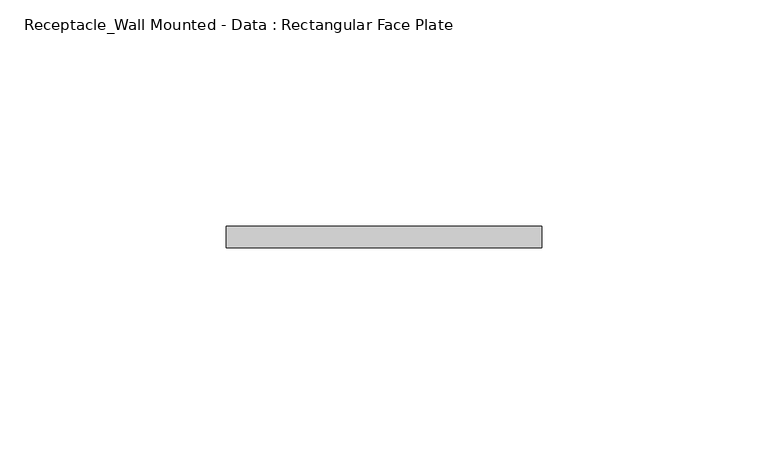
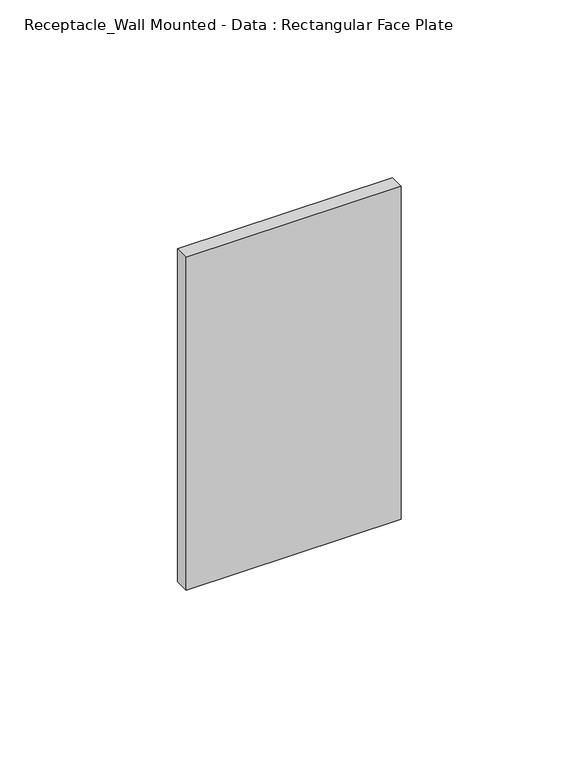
"""IFC4 building model written with IfcOpenShell, lengths in millimetres: proxy geometry, Receptacle_Wall Mounted - Data : Rectangular Face Plate."""

import ifcopenshell
import ifcopenshell.guid

model = None  # the IFC model being written
_history = None  # IfcOwnerHistory: only IFC2X3 demands one
_inside = {}  # id of a spatial element -> (the spatial element, [elements in it])
_under = {}  # id of a project, library or spatial element -> (it, [spatial elements below it])
_declared = {}  # id of a project -> (the project, [libraries it declares])
_typed = {}  # id of a type object -> (the type object, [elements of that type])
_made_of = {}  # id of a material, layer set ... -> (it, [elements and type objects made of it])


def new_model(schema):
    """Start an empty IFC model of exactly this schema.

    Asked for "IFC4X3", IfcOpenShell would pick the latest addendum, in which some entities
    have other attributes; the version numbers below select the first issue.
    IFC2X3 requires an IfcOwnerHistory on every rooted entity: one is made here for all.
    """
    global model, _history
    if schema == "IFC4X3":
        model = ifcopenshell.file(schema_version=(4, 3, 0, 0))
    else:
        model = ifcopenshell.file(schema=schema)
    _inside.clear()
    _under.clear()
    _declared.clear()
    _typed.clear()
    _made_of.clear()
    _history = None
    if model.schema == "IFC2X3":
        org = make("IfcOrganization", Name="unknown")
        user = make(
            "IfcPersonAndOrganization",
            ThePerson=make("IfcPerson", FamilyName="unknown"),
            TheOrganization=org,
        )
        app = make(
            "IfcApplication",
            ApplicationDeveloper=org,
            Version="unknown",
            ApplicationFullName="unknown",
            ApplicationIdentifier="unknown",
        )
        _history = make(
            "IfcOwnerHistory",
            OwningUser=user,
            OwningApplication=app,
            ChangeAction="ADDED",
            CreationDate=0,
        )
    return model


def make(cls, **values):
    """One entity of the class cls with the attributes given. An attribute that is None is left unset."""
    return model.create_entity(
        cls, **{name: value for name, value in values.items() if value is not None}
    )


def rooted(cls, **values):
    """An entity with a GlobalId (a new one), such as an element, a storey or a relation."""
    return make(cls, GlobalId=ifcopenshell.guid.new(), OwnerHistory=_history, **values)


def si_unit(unit_type, name, prefix=None):
    """IfcSIUnit, for example si_unit("LENGTHUNIT", "METRE", prefix="MILLI")."""
    return make("IfcSIUnit", UnitType=unit_type, Prefix=prefix, Name=name)


def assignment(units):
    """IfcUnitAssignment: the units of a project."""
    return None if units is None else make("IfcUnitAssignment", Units=units)


def point(xyz):
    """IfcCartesianPoint."""
    return None if xyz is None else make("IfcCartesianPoint", Coordinates=xyz)


def direction(xyz):
    """IfcDirection."""
    return None if xyz is None else make("IfcDirection", DirectionRatios=xyz)


def frame(location, z_axis=None, x_axis=None):
    """IfcAxis2Placement3D, a coordinate frame: its origin and axes. An axis left out is left unset."""
    return make(
        "IfcAxis2Placement3D",
        Location=point(location),
        Axis=direction(z_axis),
        RefDirection=direction(x_axis),
    )


def origin():
    """The frame at (0, 0, 0) with its axes left unset."""
    return frame((0.0, 0.0, 0.0))


def place(relative_to, where):
    """IfcLocalPlacement: puts the frame where relative to a parent placement (None: the world)."""
    return make(
        "IfcLocalPlacement", PlacementRelTo=relative_to, RelativePlacement=where
    )


def context(
    kind, dimensions, precision=None, world=None, true_north=None, identifier=None
):
    """IfcGeometricRepresentationContext, for example the 3D "Model" context."""
    return make(
        "IfcGeometricRepresentationContext",
        ContextIdentifier=identifier,
        ContextType=kind,
        CoordinateSpaceDimension=dimensions,
        Precision=precision,
        WorldCoordinateSystem=world,
        TrueNorth=true_north,
    )


def project(units=None, contexts=None):
    """IfcProject with its units and contexts."""
    return rooted(
        "IfcProject",
        Name="project",
        RepresentationContexts=contexts,
        UnitsInContext=assignment(units),
    )


def spatial(cls, under=None, at=None, **own):
    """A site, building, storey or space (cls), placed at a placement, below another one or the project."""
    s = rooted(cls, ObjectPlacement=at, **own)
    if under is not None:
        _under.setdefault(under.id(), (under, []))[1].append(s)
    return s


def polyline(points):
    """IfcPolyline through the points."""
    return make("IfcPolyline", Points=[point(p) for p in points])


def outline(outer, holes=None, kind="AREA"):
    """IfcArbitraryClosedProfileDef: a profile drawn as a closed curve; with holes, ...WithVoids."""
    if holes is None:
        return make("IfcArbitraryClosedProfileDef", ProfileType=kind, OuterCurve=outer)
    return make(
        "IfcArbitraryProfileDefWithVoids",
        ProfileType=kind,
        OuterCurve=outer,
        InnerCurves=holes,
    )


def extrude(swept, where, along, depth):
    """IfcExtrudedAreaSolid: the profile swept, set in the frame where, extruded along a direction by depth."""
    return make(
        "IfcExtrudedAreaSolid",
        SweptArea=swept,
        Position=where,
        ExtrudedDirection=direction(along),
        Depth=depth,
    )


def shape(context_of_items, identifier, shape_type, items):
    """IfcShapeRepresentation: the items that make up one representation, for example the "Body"."""
    return make(
        "IfcShapeRepresentation",
        ContextOfItems=context_of_items,
        RepresentationIdentifier=identifier,
        RepresentationType=shape_type,
        Items=items,
    )


def source(mapping_origin, context_of_items, identifier, shape_type, items):
    """IfcRepresentationMap: a shape defined once, which mapped items show again and again."""
    return make(
        "IfcRepresentationMap",
        MappingOrigin=mapping_origin,
        MappedRepresentation=shape(context_of_items, identifier, shape_type, items),
    )


def transform(
    local_origin,
    x_axis=None,
    y_axis=None,
    z_axis=None,
    scale=None,
    scale2=None,
    scale3=None,
    uniform=True,
):
    """IfcCartesianTransformationOperator3D, or its non-uniform kind. x_axis, y_axis, z_axis: its Axis1, 2, 3."""
    if uniform:
        return make(
            "IfcCartesianTransformationOperator3D",
            Axis1=direction(x_axis),
            Axis2=direction(y_axis),
            LocalOrigin=point(local_origin),
            Scale=scale,
            Axis3=direction(z_axis),
        )
    return make(
        "IfcCartesianTransformationOperator3DnonUniform",
        Axis1=direction(x_axis),
        Axis2=direction(y_axis),
        LocalOrigin=point(local_origin),
        Scale=scale,
        Axis3=direction(z_axis),
        Scale2=scale2,
        Scale3=scale3,
    )


def mapped(mapping_source, mapping_target):
    """IfcMappedItem: shows the shape of a source again, moved by a transform."""
    return make(
        "IfcMappedItem", MappingSource=mapping_source, MappingTarget=mapping_target
    )


def made_of(thing, what):
    """Note that an element or type object is made of a material, layer set ...; save() writes the relation."""
    if what is not None:
        _made_of.setdefault(what.id(), (what, []))[1].append(thing)
    return thing


def element(
    cls,
    number,
    at=None,
    inside=None,
    cuts=None,
    type_object=None,
    material=None,
    context=None,
    identifier="Body",
    shape_type=None,
    held_by="IfcProductDefinitionShape",
    body=None,
    shapes=None,
    **own,
):
    """One element of the class cls, such as IfcWall. Its Tag is "e" and its number.

    at: its placement. inside: the storey or other place that contains it. cuts: it is an
    opening in that element (IfcRelVoidsElement). A single representation is given by context,
    identifier, shape_type and body (its items); several are given by shapes. held_by: the class
    of the entity that holds the representations. save() writes the other relations.
    """
    e = rooted(cls, Tag="e%d" % number, ObjectPlacement=at, **own)
    if body is not None:
        shapes = [shape(context, identifier, shape_type, body)]
    if shapes is not None:
        e.Representation = make(held_by, Representations=shapes)
    if inside is not None:
        _inside.setdefault(inside.id(), (inside, []))[1].append(e)
    if cuts is not None:
        rooted(
            "IfcRelVoidsElement", RelatingBuildingElement=cuts, RelatedOpeningElement=e
        )
    if type_object is not None:
        _typed.setdefault(type_object.id(), (type_object, []))[1].append(e)
    return made_of(e, material)


def aggregate(whole, parts):
    """IfcRelAggregates: a whole, such as a stair, and the parts it consists of."""
    return rooted("IfcRelAggregates", RelatingObject=whole, RelatedObjects=parts)


def save(model, path):
    """Write the relations noted so far, then the file.

    IfcRelAggregates (storeys below a building ...), IfcRelContainedInSpatialStructure (elements
    in a storey), IfcRelDefinesByType, IfcRelAssociatesMaterial and IfcRelDeclares: one each for
    every whole, place, type object, material and project.
    """
    for whole, parts in _under.values():
        aggregate(whole, parts)
    for where, things in _inside.values():
        rooted(
            "IfcRelContainedInSpatialStructure",
            RelatedElements=things,
            RelatingStructure=where,
        )
    for kind, things in _typed.values():
        rooted("IfcRelDefinesByType", RelatedObjects=things, RelatingType=kind)
    for what, things in _made_of.values():
        rooted("IfcRelAssociatesMaterial", RelatedObjects=things, RelatingMaterial=what)
    for by, libraries in _declared.values():
        rooted("IfcRelDeclares", RelatingContext=by, RelatedDefinitions=libraries)
    model.write(path)


def receptacle_wall_mounted_data_rectangular_face_plate_b5f3fb20(model_context):
    return source(origin(), model_context, "Body", "SweptSolid", [
        extrude(outline(polyline([(34.925, 53.975), (-34.925, 53.975), (-34.925, 58.7375), (34.925, 58.7375), (34.925, 53.975)])), frame((0.0, 0.0, 400.05), z_axis=(0.0, 0.0, 1.0), x_axis=(1.0, 0.0, 0.0)), (0.0, 0.0, 1.0), 114.3),
    ])


if __name__ == "__main__":
    model = new_model("IFC4")
    model_context = context("Model", 3, world=origin())
    ifc_project = project(units=[si_unit("LENGTHUNIT", "METRE", prefix="MILLI")], contexts=[model_context])
    site = spatial("IfcSite", under=ifc_project)
    building = spatial("IfcBuilding", under=site)
    placement = place(None, origin())
    receptacle_wall_mounted_data_rectangular_face_plate_shape = receptacle_wall_mounted_data_rectangular_face_plate_b5f3fb20(model_context)
    element("IfcBuildingElementProxy", 1, Name="Receptacle_Wall Mounted - Data : Rectangular Face Plate", ObjectType="Receptacle_Wall Mounted - Data : Rectangular Face Plate", at=placement, inside=building, context=model_context, shape_type="MappedRepresentation", body=[
        mapped(receptacle_wall_mounted_data_rectangular_face_plate_shape, transform((0.0, 0.0, 0.0), x_axis=(1.0, 0.0, 0.0), y_axis=(0.0, 1.0, 0.0), z_axis=(0.0, 0.0, 1.0))),
    ])
    save(model, "model.ifc")
